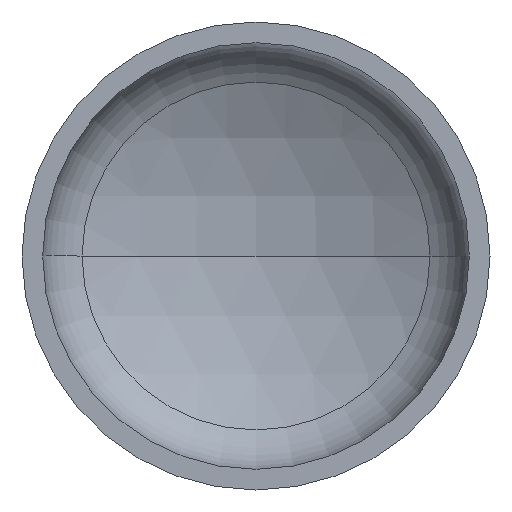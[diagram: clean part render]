
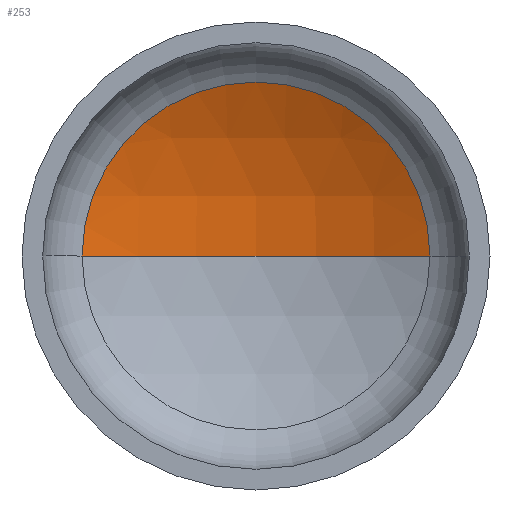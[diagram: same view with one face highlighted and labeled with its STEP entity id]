
A CAD part, front view. The second image highlights one B-rep face of the part: STEP entity #253.
In plain terms, the highlighted spherical face has radius 560 mm.
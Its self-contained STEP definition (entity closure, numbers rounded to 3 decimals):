
#2 = DIRECTION ( 'NONE',  ( -1., 0., 0. ) ) ;
#5 = AXIS2_PLACEMENT_3D ( 'NONE', #54, #280, #282 ) ;
#8 = AXIS2_PLACEMENT_3D ( 'NONE', #236, #98, #143 ) ;
#13 = AXIS2_PLACEMENT_3D ( 'NONE', #160, #274, #188 ) ;
#23 = EDGE_LOOP ( 'NONE', ( #48, #90, #29 ) ) ;
#29 = ORIENTED_EDGE ( 'NONE', *, *, #365, .T. ) ;
#44 = VERTEX_POINT ( 'NONE', #286 ) ;
#48 = ORIENTED_EDGE ( 'NONE', *, *, #359, .F. ) ;
#50 = AXIS2_PLACEMENT_3D ( 'NONE', #304, #199, #2 ) ;
#54 = CARTESIAN_POINT ( 'NONE',  ( 0., 197.416, 0. ) ) ;
#72 = FACE_OUTER_BOUND ( 'NONE', #23, .T. ) ;
#90 = ORIENTED_EDGE ( 'NONE', *, *, #349, .T. ) ;
#98 = DIRECTION ( 'NONE',  ( 0., 0., 1. ) ) ;
#117 = VERTEX_POINT ( 'NONE', #320 ) ;
#131 = VERTEX_POINT ( 'NONE', #316 ) ;
#143 = DIRECTION ( 'NONE',  ( 1., 0., 0. ) ) ;
#160 = CARTESIAN_POINT ( 'NONE',  ( 0., -298.521, 0. ) ) ;
#188 = DIRECTION ( 'NONE',  ( -1., 0., 0. ) ) ;
#199 = DIRECTION ( 'NONE',  ( 0., 0., -1. ) ) ;
#220 = CIRCLE ( 'NONE', #13, 560. ) ;
#236 = CARTESIAN_POINT ( 'NONE',  ( 0., -298.521, 0. ) ) ;
#244 = SPHERICAL_SURFACE ( 'NONE', #50, 560. ) ;
#253 = ADVANCED_FACE ( 'NONE', ( #72 ), #244, .F. ) ;
#267 = CIRCLE ( 'NONE', #5, 260.089 ) ;
#274 = DIRECTION ( 'NONE',  ( 0., 0., -1. ) ) ;
#280 = DIRECTION ( 'NONE',  ( 0., -1., 0. ) ) ;
#282 = DIRECTION ( 'NONE',  ( 1., 0., 0. ) ) ;
#286 = CARTESIAN_POINT ( 'NONE',  ( 260.089, 197.416, 0. ) ) ;
#304 = CARTESIAN_POINT ( 'NONE',  ( 0., -298.521, 0. ) ) ;
#316 = CARTESIAN_POINT ( 'NONE',  ( -260.089, 197.416, 0. ) ) ;
#320 = CARTESIAN_POINT ( 'NONE',  ( 0., 261.479, 0. ) ) ;
#349 = EDGE_CURVE ( 'NONE', #117, #44, #220, .T. ) ;
#350 = CIRCLE ( 'NONE', #8, 560. ) ;
#359 = EDGE_CURVE ( 'NONE', #117, #131, #350, .T. ) ;
#365 = EDGE_CURVE ( 'NONE', #44, #131, #267, .T. ) ;
